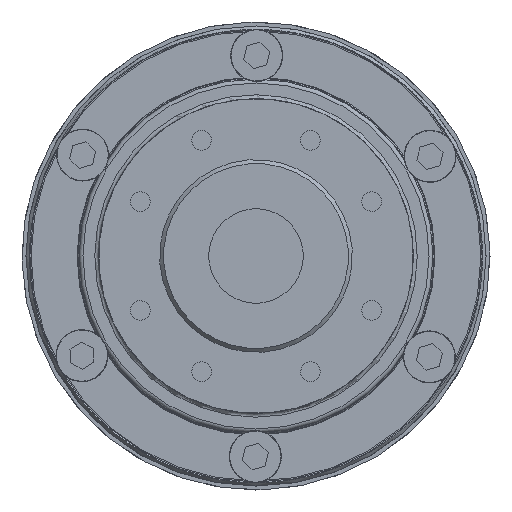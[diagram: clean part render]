
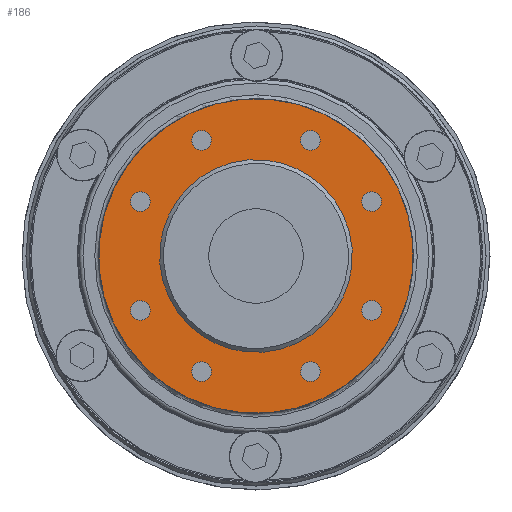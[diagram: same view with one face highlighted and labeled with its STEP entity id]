
A CAD part, left-side view. The second image highlights one B-rep face of the part: STEP entity #186.
In plain terms, the highlighted planar face has unit normal (-1, 0, 0) as drawn and (0, -1, 0) by its records, which use the part's own axes.
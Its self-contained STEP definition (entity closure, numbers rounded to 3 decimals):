
#186 = ADVANCED_FACE( '', ( #313, #314, #315, #316, #317, #318, #319, #320, #321, #322 ), #323, .F. );
#313 = FACE_OUTER_BOUND( '', #484, .T. );
#314 = FACE_BOUND( '', #485, .T. );
#315 = FACE_BOUND( '', #486, .T. );
#316 = FACE_BOUND( '', #487, .T. );
#317 = FACE_BOUND( '', #488, .T. );
#318 = FACE_BOUND( '', #489, .T. );
#319 = FACE_BOUND( '', #490, .T. );
#320 = FACE_BOUND( '', #491, .T. );
#321 = FACE_BOUND( '', #492, .T. );
#322 = FACE_BOUND( '', #493, .T. );
#323 = PLANE( '', #494 );
#484 = EDGE_LOOP( '', ( #1011 ) );
#485 = EDGE_LOOP( '', ( #1012 ) );
#486 = EDGE_LOOP( '', ( #1013 ) );
#487 = EDGE_LOOP( '', ( #1014 ) );
#488 = EDGE_LOOP( '', ( #1015 ) );
#489 = EDGE_LOOP( '', ( #1016 ) );
#490 = EDGE_LOOP( '', ( #1017 ) );
#491 = EDGE_LOOP( '', ( #1018 ) );
#492 = EDGE_LOOP( '', ( #1019 ) );
#493 = EDGE_LOOP( '', ( #1020 ) );
#494 = AXIS2_PLACEMENT_3D( '', #1021, #1022, #1023 );
#1011 = ORIENTED_EDGE( '', *, *, #2054, .T. );
#1012 = ORIENTED_EDGE( '', *, *, #2055, .F. );
#1013 = ORIENTED_EDGE( '', *, *, #2056, .F. );
#1014 = ORIENTED_EDGE( '', *, *, #2057, .F. );
#1015 = ORIENTED_EDGE( '', *, *, #2058, .F. );
#1016 = ORIENTED_EDGE( '', *, *, #2052, .F. );
#1017 = ORIENTED_EDGE( '', *, *, #2059, .F. );
#1018 = ORIENTED_EDGE( '', *, *, #2060, .F. );
#1019 = ORIENTED_EDGE( '', *, *, #2061, .F. );
#1020 = ORIENTED_EDGE( '', *, *, #2050, .F. );
#1021 = CARTESIAN_POINT( '', ( 0., 0., 40. ) );
#1022 = DIRECTION( '', ( 0., 1., 0. ) );
#1023 = DIRECTION( '', ( 1., 0., 0. ) );
#2050 = EDGE_CURVE( '', #3058, #3058, #3059, .T. );
#2052 = EDGE_CURVE( '', #3061, #3061, #3062, .T. );
#2054 = EDGE_CURVE( '', #3064, #3064, #3065, .T. );
#2055 = EDGE_CURVE( '', #3066, #3066, #3067, .T. );
#2056 = EDGE_CURVE( '', #3068, #3068, #3069, .T. );
#2057 = EDGE_CURVE( '', #3070, #3070, #3071, .T. );
#2058 = EDGE_CURVE( '', #3072, #3072, #3073, .T. );
#2059 = EDGE_CURVE( '', #3074, #3074, #3075, .T. );
#2060 = EDGE_CURVE( '', #3076, #3076, #3077, .T. );
#2061 = EDGE_CURVE( '', #3078, #3078, #3079, .T. );
#3058 = VERTEX_POINT( '', #5590 );
#3059 = CIRCLE( '', #5591, 24.5 );
#3061 = VERTEX_POINT( '', #5593 );
#3062 = CIRCLE( '', #5594, 2.5 );
#3064 = VERTEX_POINT( '', #5596 );
#3065 = CIRCLE( '', #5597, 40. );
#3066 = VERTEX_POINT( '', #5598 );
#3067 = CIRCLE( '', #5599, 2.5 );
#3068 = VERTEX_POINT( '', #5600 );
#3069 = CIRCLE( '', #5601, 2.5 );
#3070 = VERTEX_POINT( '', #5602 );
#3071 = CIRCLE( '', #5603, 2.5 );
#3072 = VERTEX_POINT( '', #5604 );
#3073 = CIRCLE( '', #5605, 2.5 );
#3074 = VERTEX_POINT( '', #5606 );
#3075 = CIRCLE( '', #5607, 2.5 );
#3076 = VERTEX_POINT( '', #5608 );
#3077 = CIRCLE( '', #5609, 2.5 );
#3078 = VERTEX_POINT( '', #5610 );
#3079 = CIRCLE( '', #5611, 2.5 );
#5590 = CARTESIAN_POINT( '', ( 0., 0., -24.5 ) );
#5591 = AXIS2_PLACEMENT_3D( '', #6332, #6333, #6334 );
#5593 = CARTESIAN_POINT( '', ( 25.054, 0., -23.202 ) );
#5594 = AXIS2_PLACEMENT_3D( '', #6335, #6336, #6337 );
#5596 = CARTESIAN_POINT( '', ( 0., 0., -40. ) );
#5597 = AXIS2_PLACEMENT_3D( '', #6338, #6339, #6340 );
#5598 = CARTESIAN_POINT( '', ( -25.054, 0., 23.202 ) );
#5599 = AXIS2_PLACEMENT_3D( '', #6341, #6342, #6343 );
#5600 = CARTESIAN_POINT( '', ( -32.5, 0., 2.5 ) );
#5601 = AXIS2_PLACEMENT_3D( '', #6344, #6345, #6346 );
#5602 = CARTESIAN_POINT( '', ( -23.202, 0., -25.054 ) );
#5603 = AXIS2_PLACEMENT_3D( '', #6347, #6348, #6349 );
#5604 = CARTESIAN_POINT( '', ( -2.5, 0., -32.5 ) );
#5605 = AXIS2_PLACEMENT_3D( '', #6350, #6351, #6352 );
#5606 = CARTESIAN_POINT( '', ( 32.5, 0., -2.5 ) );
#5607 = AXIS2_PLACEMENT_3D( '', #6353, #6354, #6355 );
#5608 = CARTESIAN_POINT( '', ( 23.202, 0., 25.054 ) );
#5609 = AXIS2_PLACEMENT_3D( '', #6356, #6357, #6358 );
#5610 = CARTESIAN_POINT( '', ( 2.5, 0., 32.5 ) );
#5611 = AXIS2_PLACEMENT_3D( '', #6359, #6360, #6361 );
#6332 = CARTESIAN_POINT( '', ( 0., 0., 0. ) );
#6333 = DIRECTION( '', ( 0., -1., 0. ) );
#6334 = DIRECTION( '', ( 0., 0., -1. ) );
#6335 = CARTESIAN_POINT( '', ( 25.054, 0., -20.702 ) );
#6336 = DIRECTION( '', ( 0., -1., 0. ) );
#6337 = DIRECTION( '', ( 0., 0., -1. ) );
#6338 = CARTESIAN_POINT( '', ( 0., 0., 0. ) );
#6339 = DIRECTION( '', ( 0., -1., 0. ) );
#6340 = DIRECTION( '', ( 0., 0., -1. ) );
#6341 = CARTESIAN_POINT( '', ( -25.054, 0., 20.702 ) );
#6342 = DIRECTION( '', ( 0., -1., 0. ) );
#6343 = DIRECTION( '', ( 0., 0., 1. ) );
#6344 = CARTESIAN_POINT( '', ( -32.5, 0., 0. ) );
#6345 = DIRECTION( '', ( 0., -1., 0. ) );
#6346 = DIRECTION( '', ( 0., 0., 1. ) );
#6347 = CARTESIAN_POINT( '', ( -20.702, 0., -25.054 ) );
#6348 = DIRECTION( '', ( 0., -1., 0. ) );
#6349 = DIRECTION( '', ( -1., 0., 0. ) );
#6350 = CARTESIAN_POINT( '', ( 0., 0., -32.5 ) );
#6351 = DIRECTION( '', ( 0., -1., 0. ) );
#6352 = DIRECTION( '', ( -1., 0., 0. ) );
#6353 = CARTESIAN_POINT( '', ( 32.5, 0., 0. ) );
#6354 = DIRECTION( '', ( 0., -1., 0. ) );
#6355 = DIRECTION( '', ( 0., 0., -1. ) );
#6356 = CARTESIAN_POINT( '', ( 20.702, 0., 25.054 ) );
#6357 = DIRECTION( '', ( 0., -1., 0. ) );
#6358 = DIRECTION( '', ( 1., 0., 0. ) );
#6359 = CARTESIAN_POINT( '', ( 0., 0., 32.5 ) );
#6360 = DIRECTION( '', ( 0., -1., 0. ) );
#6361 = DIRECTION( '', ( 1., 0., 0. ) );
